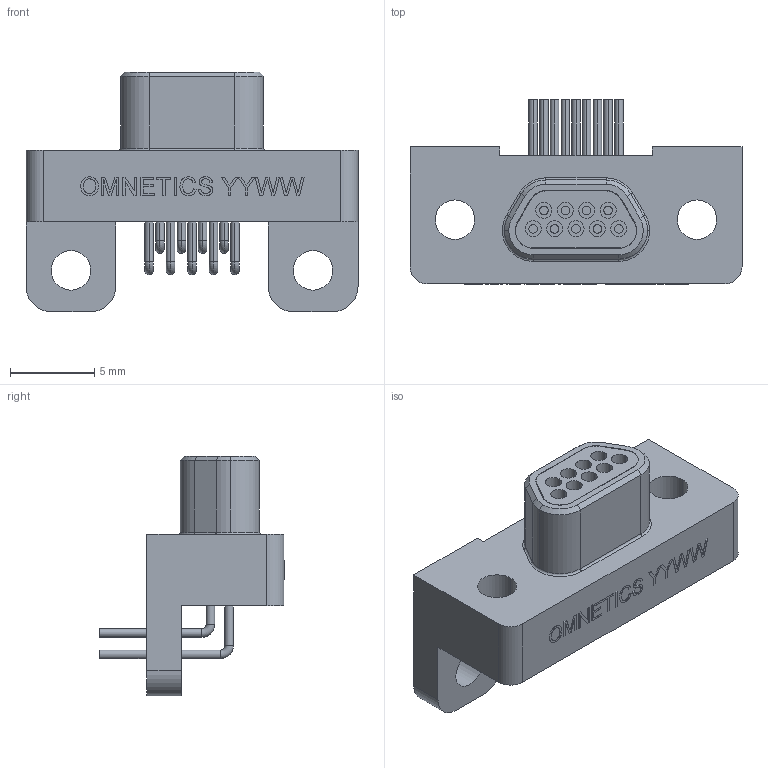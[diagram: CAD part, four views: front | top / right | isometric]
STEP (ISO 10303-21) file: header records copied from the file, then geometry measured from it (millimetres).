
FILE_DESCRIPTION (( 'STEP AP214' ), '1' );
FILE_NAME ('A98055-009 REV B.STEP', '2016-04-18T15:47:43', ( '' ), ( '' ), 'SwSTEP 2.0', 'SolidWorks 2015', '' );
FILE_SCHEMA (( 'AUTOMOTIVE_DESIGN' ));
Length unit declared in the file: inch
Products named in the file (1): A98055-009 REV B
Bounding box: 19.68 x 10.93 x 14.22 mm (x, y, z)
Volume: 796.6 mm3; surface area: 1450.7 mm2
Topology: 1 solids, 1 shells, 441 faces, 1081 edges, 689 vertices
Faces by surface type: plane 186, cylinder 155, bspline 54, torus 23, cone 23
Entity records: 15591 total; most frequent: CARTESIAN_POINT 5227, ORIENTED_EDGE 2150, DIRECTION 2089, EDGE_CURVE 1075, AXIS2_PLACEMENT_3D 733, VERTEX_POINT 689, VECTOR 623, LINE 623
